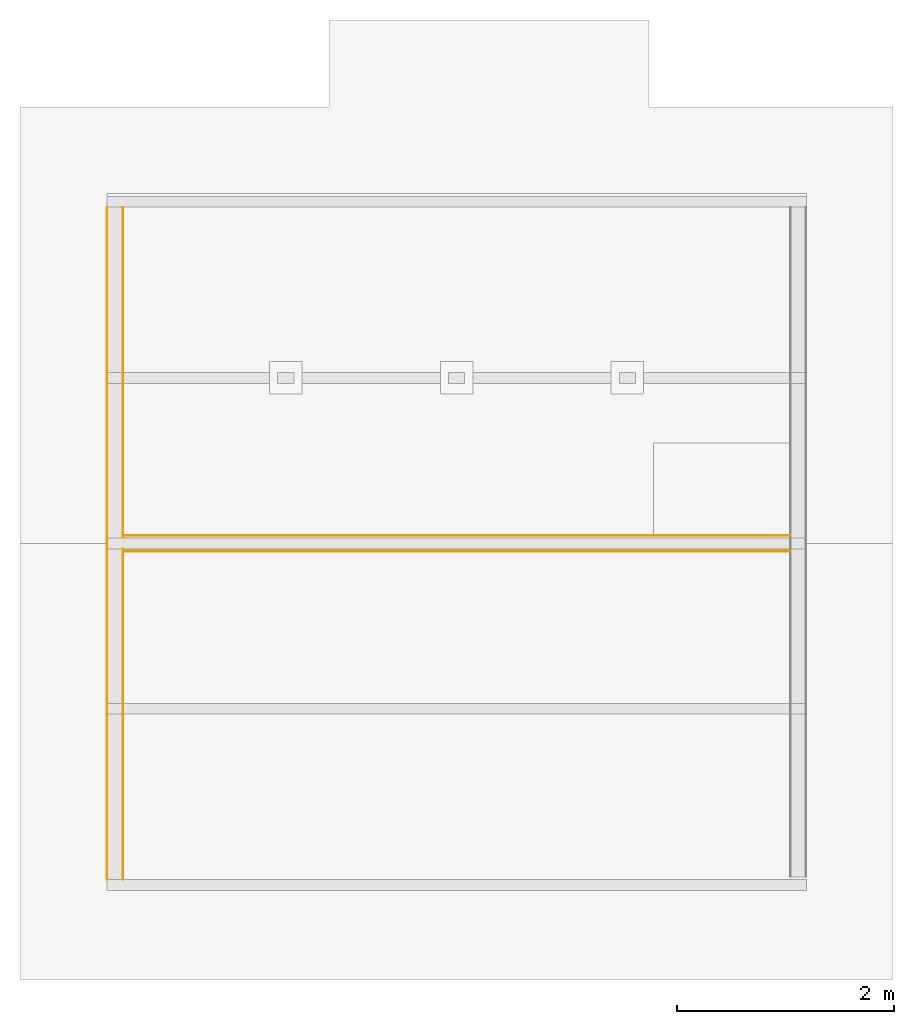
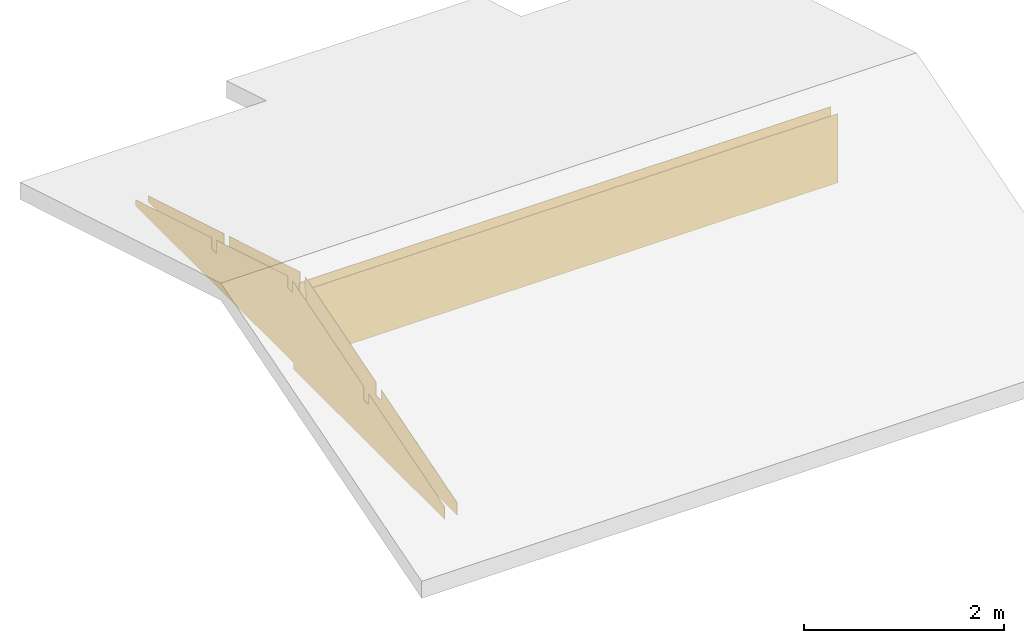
# One storey, part 3 of 4: 4 coverings, 2 elements without a shape of their own.
"""IFC2X3 building model written with IfcOpenShell, lengths in millimetres."""

from ifc_helpers import new_model, entity, si_unit, converted_unit, derived_unit, money_unit, direction, frame, origin_with_axes, place, context, subcontext, project, spatial, polyline, outline, extrude, boolean, faceted_brep, material, type_object, element, aggregate, save


model = new_model("IFC2X3")

# Units and contexts
model_context = context("Model", 3, precision=0.01, world=origin_with_axes(), true_north=direction((0.0, 1.0)))
body_context = subcontext(model_context, "Body", "Model", "MODEL_VIEW")
ifc_project = project(units=[si_unit("LENGTHUNIT", "METRE", prefix="MILLI"), si_unit("AREAUNIT", "SQUARE_METRE"), si_unit("VOLUMEUNIT", "CUBIC_METRE"), converted_unit("PLANEANGLEUNIT", "DEGREE", entity("IfcPlaneAngleMeasure", 0.0174532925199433), si_unit("PLANEANGLEUNIT", "RADIAN"), dimensions=[0, 0, 0, 0, 0, 0, 0]), money_unit("USD"), converted_unit("TIMEUNIT", "Year", entity("IfcTimeMeasure", 31557600.0), si_unit("TIMEUNIT", "SECOND"), dimensions=[0, 0, 1, 0, 0, 0, 0]), si_unit("MASSUNIT", "GRAM", prefix="KILO"), si_unit("THERMODYNAMICTEMPERATUREUNIT", "DEGREE_CELSIUS"), si_unit("LUMINOUSINTENSITYUNIT", "LUMEN"), si_unit("ENERGYUNIT", "JOULE", prefix="MEGA"), derived_unit("THERMALCONDUCTANCEUNIT", [(si_unit("POWERUNIT", "WATT"), 1), (si_unit("LENGTHUNIT", "METRE"), -1), (si_unit("THERMODYNAMICTEMPERATUREUNIT", "KELVIN"), -1)]), derived_unit("SPECIFICHEATCAPACITYUNIT", [(si_unit("ENERGYUNIT", "JOULE"), 1), (si_unit("MASSUNIT", "GRAM", prefix="KILO"), -1), (si_unit("THERMODYNAMICTEMPERATUREUNIT", "KELVIN"), -1)]), derived_unit("MASSDENSITYUNIT", [(si_unit("MASSUNIT", "GRAM", prefix="KILO"), 1), (si_unit("VOLUMEUNIT", "CUBIC_METRE"), -1)])], contexts=[model_context])

# Site, building, storey
site_placement = place(None, origin_with_axes())
site = spatial("IfcSite", under=ifc_project, at=site_placement, Name="Local", CompositionType="ELEMENT")
building_placement = place(site_placement, origin_with_axes())
building = spatial("IfcBuilding", under=site, at=building_placement, Name="Construção", CompositionType="ELEMENT")
storey_placement = place(building_placement, frame((0.0, 0.0, 2500.0), z_axis=(0.0, 0.0, 1.0), x_axis=(1.0, 0.0, 0.0)))
storey = spatial("IfcBuildingStorey", under=building, at=storey_placement, Name="Cobertura", CompositionType="ELEMENT", Elevation=2500.0)

# Wall, coverings
wall_type = type_object("IfcWallType", Name="Alvenaria 140, Rebocada 2 Faces 150", PredefinedType="NOTDEFINED")
wall_1_placement = place(storey_placement, frame((0.0, 6325.000000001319, 0.0), z_axis=(0.0, 0.0, 1.0), x_axis=(0.0, -1.0, 0.0)))
wall_1 = element("IfcWall", 1, at=wall_1_placement, inside=storey, type_object=wall_type, Name="Parede-09")
ifc_material = material(Name="Reboco DEF")
covering_1_placement = place(wall_1_placement, origin_with_axes())
covering_1 = element("IfcCovering", 2, at=covering_1_placement, material=ifc_material, Name="Reboco DEF", PredefinedType="CLADDING", context=body_context, shape_type="CSG", body=[
    boolean("DIFFERENCE", boolean("DIFFERENCE", boolean("DIFFERENCE", boolean("DIFFERENCE", boolean("DIFFERENCE", extrude(outline(polyline([(0.0, 0.0), (6200.000000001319, 0.0), (6200.000000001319, 5.000000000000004), (0.0, 5.000000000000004), (0.0, 0.0)])), origin_with_axes(), (0.0, 0.0, 1.0), 1176.306130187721), faceted_brep([(0.0, 0.0, 80.00000000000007), (0.0, 4.999999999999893, 80.00000000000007), (0.0, 5.000000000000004, 0.0), (0.0, 0.0, 0.0), (3175.000000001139, 0.0, 80.00000000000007), (3175.000000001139, 4.999999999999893, 80.00000000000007), (3175.000000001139, 4.999999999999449, 0.0), (3175.000000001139, 0.0, 0.0)], [[[0, 1, 2, 3]], [[1, 0, 4, 5]], [[5, 6, 2, 1]], [[6, 7, 3, 2]], [[4, 0, 3, 7]], [[7, 6, 5, 4]]])), faceted_brep([(1524.999999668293, 4.999999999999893, 480.4517407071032), (1524.999999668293, 4.999999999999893, 610.4517409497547), (0.0, 4.999999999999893, 152.9517410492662), (0.0, 5.000000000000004, 1176.306130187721), (6200.000000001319, 5.000000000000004, 1176.306130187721), (6200.000000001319, 4.999999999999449, 152.9517406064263), (4674.999999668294, 4.999999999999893, 610.4517407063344), (4674.999999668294, 4.999999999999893, 480.4517406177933), (4574.999999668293, 4.999999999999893, 480.4517406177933), (4574.999999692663, 4.999999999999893, 640.4517406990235), (3149.999999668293, 4.999999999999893, 1067.951740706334), (3149.999999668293, 4.999999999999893, 922.9517406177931), (3049.999999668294, 4.999999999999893, 922.9517406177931), (3049.999999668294, 4.999999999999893, 1067.951740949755), (1624.999999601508, 4.999999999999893, 640.451740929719), (1624.999999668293, 4.999999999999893, 480.4517407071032), (1524.999999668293, 0.0, 480.4517407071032), (1524.999999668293, 0.0, 610.4517409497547), (0.0, 0.0, 152.9517410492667), (0.0, 0.0, 1176.306130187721), (6200.000000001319, 0.0, 1176.306130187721), (6200.000000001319, 0.0, 152.9517406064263), (4674.999999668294, 0.0, 610.4517407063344), (4674.999999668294, 0.0, 480.4517406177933), (4574.999999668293, 0.0, 480.4517406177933), (4574.999999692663, 0.0, 640.4517406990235), (3149.999999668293, 0.0, 1067.951740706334), (3149.999999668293, 0.0, 922.9517406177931), (3049.999999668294, 0.0, 922.9517406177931), (3049.999999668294, 0.0, 1067.951740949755), (1624.999999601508, 0.0, 640.451740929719), (1624.999999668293, 0.0, 480.4517407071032)], [[[0, 1, 2, 3, 4, 5, 6, 7, 8, 9, 10, 11, 12, 13, 14, 15]], [[16, 17, 1, 0]], [[18, 2, 1, 17]], [[2, 18, 19, 3]], [[3, 19, 20, 4]], [[21, 5, 4, 20]], [[6, 5, 21, 22]], [[22, 23, 7, 6]], [[23, 24, 8, 7]], [[24, 25, 9, 8]], [[10, 9, 25, 26]], [[26, 27, 11, 10]], [[27, 28, 12, 11]], [[28, 29, 13, 12]], [[14, 13, 29, 30]], [[30, 31, 15, 14]], [[31, 16, 0, 15]], [[22, 21, 20, 19, 18, 17, 16, 31, 30, 29, 28, 27, 26, 25, 24, 23]]])), faceted_brep([(0.0, 4.999999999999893, 80.00000000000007), (0.0, 145.0, 80.00000000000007), (0.0, 145.0, 0.0), (0.0, 5.000000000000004, 0.0), (3175.000000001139, 4.999999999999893, 80.00000000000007), (3175.000000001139, 145.0, 80.00000000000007), (3175.000000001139, 144.9999999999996, 0.0), (3175.000000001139, 4.999999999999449, 0.0)], [[[0, 1, 2, 3]], [[1, 0, 4, 5]], [[5, 6, 2, 1]], [[6, 7, 3, 2]], [[4, 0, 3, 7]], [[7, 6, 5, 4]]])), faceted_brep([(1524.999999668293, 144.9999999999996, 480.4517407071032), (1524.999999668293, 144.9999999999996, 610.4517409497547), (0.0, 145.0, 152.9517410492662), (0.0, 145.0, 1176.306130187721), (6200.000000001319, 145.0, 1176.306130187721), (6200.000000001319, 144.9999999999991, 152.9517406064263), (4674.999999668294, 144.9999999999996, 610.4517407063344), (4674.999999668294, 144.9999999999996, 480.4517406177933), (4574.999999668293, 144.9999999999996, 480.4517406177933), (4574.999999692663, 144.9999999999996, 640.4517406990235), (3149.999999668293, 144.9999999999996, 1067.951740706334), (3149.999999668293, 144.9999999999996, 922.9517406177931), (3049.999999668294, 144.9999999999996, 922.9517406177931), (3049.999999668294, 144.9999999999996, 1067.951740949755), (1624.999999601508, 144.9999999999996, 640.451740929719), (1624.999999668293, 144.9999999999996, 480.4517407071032), (1524.999999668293, 4.999999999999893, 480.4517407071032), (1524.999999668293, 4.999999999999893, 610.4517409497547), (0.0, 4.999999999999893, 152.9517410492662), (0.0, 5.000000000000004, 1176.306130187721), (6200.000000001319, 5.000000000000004, 1176.306130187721), (6200.000000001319, 4.999999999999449, 152.9517406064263), (4674.999999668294, 4.999999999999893, 610.4517407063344), (4674.999999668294, 4.999999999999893, 480.4517406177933), (4574.999999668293, 4.999999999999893, 480.4517406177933), (4574.999999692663, 4.999999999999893, 640.4517406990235), (3149.999999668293, 4.999999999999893, 1067.951740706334), (3149.999999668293, 4.999999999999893, 922.9517406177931), (3049.999999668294, 4.999999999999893, 922.9517406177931), (3049.999999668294, 4.999999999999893, 1067.951740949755), (1624.999999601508, 4.999999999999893, 640.451740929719), (1624.999999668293, 4.999999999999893, 480.4517407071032)], [[[0, 1, 2, 3, 4, 5, 6, 7, 8, 9, 10, 11, 12, 13, 14, 15]], [[0, 16, 17, 1]], [[18, 2, 1, 17]], [[2, 18, 19, 3]], [[3, 19, 20, 4]], [[21, 5, 4, 20]], [[6, 5, 21, 22]], [[23, 7, 6, 22]], [[7, 23, 24, 8]], [[8, 24, 25, 9]], [[10, 9, 25, 26]], [[27, 11, 10, 26]], [[12, 11, 27, 28]], [[12, 28, 29, 13]], [[14, 13, 29, 30]], [[31, 15, 14, 30]], [[15, 31, 16, 0]], [[22, 21, 20, 19, 18, 17, 16, 31, 30, 29, 28, 27, 26, 25, 24, 23]]])), faceted_brep([(1524.999999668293, 149.9999999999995, 480.4517407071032), (1524.999999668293, 149.9999999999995, 610.4517409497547), (0.0, 149.9999999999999, 152.9517410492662), (0.0, 150.0, 1176.306130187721), (6200.000000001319, 150.0, 1176.306130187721), (6200.000000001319, 149.9999999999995, 152.9517406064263), (4674.999999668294, 149.9999999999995, 610.4517407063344), (4674.999999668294, 149.9999999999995, 480.4517406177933), (4574.999999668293, 149.9999999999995, 480.4517406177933), (4574.999999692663, 149.9999999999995, 640.4517406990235), (3149.999999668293, 149.9999999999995, 1067.951740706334), (3149.999999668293, 149.9999999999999, 922.9517406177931), (3170.000000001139, 149.9999999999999, 922.9517406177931), (3170.000000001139, 149.9999999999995, 80.00000000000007), (3175.000000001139, 149.9999999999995, 80.00000000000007), (3175.000000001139, 149.9999999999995, 0.0), (0.0, 150.0, 0.0), (0.0, 149.9999999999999, 80.00000000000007), (3030.000000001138, 150.0000000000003, 80.00000000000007), (3030.000000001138, 149.9999999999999, 922.9517406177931), (3049.999999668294, 149.9999999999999, 922.9517406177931), (3049.999999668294, 149.9999999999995, 1067.951740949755), (1624.999999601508, 149.9999999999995, 640.451740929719), (1624.999999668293, 149.9999999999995, 480.4517407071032), (1524.999999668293, 144.9999999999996, 480.4517407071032), (1524.999999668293, 144.9999999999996, 610.4517409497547), (0.0, 145.0, 152.9517410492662), (0.0, 145.0, 1176.306130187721), (6200.000000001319, 145.0, 1176.306130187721), (6200.000000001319, 144.9999999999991, 152.9517406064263), (4674.999999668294, 144.9999999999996, 610.4517407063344), (4674.999999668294, 144.9999999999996, 480.4517406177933), (4574.999999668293, 144.9999999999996, 480.4517406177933), (4574.999999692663, 144.9999999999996, 640.4517406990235), (3149.999999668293, 144.9999999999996, 1067.951740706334), (3149.999999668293, 144.9999999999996, 922.9517406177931), (3170.000000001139, 144.9999999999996, 922.9517406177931), (3170.000000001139, 145.0, 80.00000000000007), (3175.000000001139, 145.0, 80.00000000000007), (3175.000000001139, 144.9999999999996, 0.0), (0.0, 145.0, 0.0), (0.0, 145.0, 80.00000000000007), (3030.000000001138, 145.0, 80.00000000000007), (3030.000000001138, 144.9999999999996, 922.9517406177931), (3049.999999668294, 144.9999999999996, 922.9517406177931), (3049.999999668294, 144.9999999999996, 1067.951740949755), (1624.999999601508, 144.9999999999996, 640.451740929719), (1624.999999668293, 144.9999999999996, 480.4517407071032)], [[[0, 1, 2, 3, 4, 5, 6, 7, 8, 9, 10, 11, 12, 13, 14, 15, 16, 17, 18, 19, 20, 21, 22, 23]], [[1, 0, 24, 25]], [[26, 2, 1, 25]], [[2, 26, 27, 3]], [[3, 27, 28, 4]], [[29, 5, 4, 28]], [[6, 5, 29, 30]], [[7, 6, 30, 31]], [[8, 7, 31, 32]], [[9, 8, 32, 33]], [[10, 9, 33, 34]], [[11, 10, 34, 35]], [[12, 11, 35, 36]], [[13, 12, 36, 37]], [[14, 13, 37, 38]], [[15, 14, 38, 39]], [[15, 39, 40, 16]], [[41, 17, 16, 40]], [[18, 17, 41, 42]], [[19, 18, 42, 43]], [[20, 19, 43, 44]], [[21, 20, 44, 45]], [[22, 21, 45, 46]], [[23, 22, 46, 47]], [[0, 23, 47, 24]], [[42, 41, 40, 39, 38, 37, 36, 35, 34, 33, 32, 31, 30, 29, 28, 27, 26, 25, 24, 47, 46, 45, 44, 43]]])),
])
covering_2_placement = place(wall_1_placement, origin_with_axes())
covering_2 = element("IfcCovering", 3, at=covering_2_placement, material=ifc_material, Name="Reboco DEF", PredefinedType="CLADDING", context=body_context, shape_type="CSG", body=[
    boolean("DIFFERENCE", boolean("DIFFERENCE", boolean("DIFFERENCE", boolean("DIFFERENCE", boolean("DIFFERENCE", extrude(outline(polyline([(0.0, 145.0), (6200.000000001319, 145.0), (6200.000000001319, 150.0), (0.0, 150.0), (0.0, 145.0)])), origin_with_axes(), (0.0, 0.0, 1.0), 1176.306130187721), faceted_brep([(0.0, 0.0, 80.00000000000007), (0.0, 4.999999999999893, 80.00000000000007), (0.0, 5.000000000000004, 0.0), (0.0, 0.0, 0.0), (3175.000000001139, 0.0, 80.00000000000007), (3175.000000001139, 4.999999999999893, 80.00000000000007), (3175.000000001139, 4.999999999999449, 0.0), (3175.000000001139, 0.0, 0.0)], [[[0, 1, 2, 3]], [[1, 0, 4, 5]], [[5, 6, 2, 1]], [[6, 7, 3, 2]], [[4, 0, 3, 7]], [[7, 6, 5, 4]]])), faceted_brep([(1524.999999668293, 4.999999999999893, 480.4517407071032), (1524.999999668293, 4.999999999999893, 610.4517409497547), (0.0, 4.999999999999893, 152.9517410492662), (0.0, 5.000000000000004, 1176.306130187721), (6200.000000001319, 5.000000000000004, 1176.306130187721), (6200.000000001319, 4.999999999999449, 152.9517406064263), (4674.999999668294, 4.999999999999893, 610.4517407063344), (4674.999999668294, 4.999999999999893, 480.4517406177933), (4574.999999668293, 4.999999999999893, 480.4517406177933), (4574.999999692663, 4.999999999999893, 640.4517406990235), (3149.999999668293, 4.999999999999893, 1067.951740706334), (3149.999999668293, 4.999999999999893, 922.9517406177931), (3049.999999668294, 4.999999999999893, 922.9517406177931), (3049.999999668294, 4.999999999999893, 1067.951740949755), (1624.999999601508, 4.999999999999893, 640.451740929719), (1624.999999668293, 4.999999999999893, 480.4517407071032), (1524.999999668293, 0.0, 480.4517407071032), (1524.999999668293, 0.0, 610.4517409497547), (0.0, 0.0, 152.9517410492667), (0.0, 0.0, 1176.306130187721), (6200.000000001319, 0.0, 1176.306130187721), (6200.000000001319, 0.0, 152.9517406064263), (4674.999999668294, 0.0, 610.4517407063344), (4674.999999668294, 0.0, 480.4517406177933), (4574.999999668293, 0.0, 480.4517406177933), (4574.999999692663, 0.0, 640.4517406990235), (3149.999999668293, 0.0, 1067.951740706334), (3149.999999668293, 0.0, 922.9517406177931), (3049.999999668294, 0.0, 922.9517406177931), (3049.999999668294, 0.0, 1067.951740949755), (1624.999999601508, 0.0, 640.451740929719), (1624.999999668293, 0.0, 480.4517407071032)], [[[0, 1, 2, 3, 4, 5, 6, 7, 8, 9, 10, 11, 12, 13, 14, 15]], [[16, 17, 1, 0]], [[18, 2, 1, 17]], [[2, 18, 19, 3]], [[3, 19, 20, 4]], [[21, 5, 4, 20]], [[6, 5, 21, 22]], [[22, 23, 7, 6]], [[23, 24, 8, 7]], [[24, 25, 9, 8]], [[10, 9, 25, 26]], [[26, 27, 11, 10]], [[27, 28, 12, 11]], [[28, 29, 13, 12]], [[14, 13, 29, 30]], [[30, 31, 15, 14]], [[31, 16, 0, 15]], [[22, 21, 20, 19, 18, 17, 16, 31, 30, 29, 28, 27, 26, 25, 24, 23]]])), faceted_brep([(0.0, 4.999999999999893, 80.00000000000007), (0.0, 145.0, 80.00000000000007), (0.0, 145.0, 0.0), (0.0, 5.000000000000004, 0.0), (3175.000000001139, 4.999999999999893, 80.00000000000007), (3175.000000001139, 145.0, 80.00000000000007), (3175.000000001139, 144.9999999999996, 0.0), (3175.000000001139, 4.999999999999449, 0.0)], [[[0, 1, 2, 3]], [[1, 0, 4, 5]], [[5, 6, 2, 1]], [[6, 7, 3, 2]], [[4, 0, 3, 7]], [[7, 6, 5, 4]]])), faceted_brep([(1524.999999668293, 144.9999999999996, 480.4517407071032), (1524.999999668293, 144.9999999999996, 610.4517409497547), (0.0, 145.0, 152.9517410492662), (0.0, 145.0, 1176.306130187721), (6200.000000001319, 145.0, 1176.306130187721), (6200.000000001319, 144.9999999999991, 152.9517406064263), (4674.999999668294, 144.9999999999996, 610.4517407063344), (4674.999999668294, 144.9999999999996, 480.4517406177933), (4574.999999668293, 144.9999999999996, 480.4517406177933), (4574.999999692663, 144.9999999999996, 640.4517406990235), (3149.999999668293, 144.9999999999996, 1067.951740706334), (3149.999999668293, 144.9999999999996, 922.9517406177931), (3049.999999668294, 144.9999999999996, 922.9517406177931), (3049.999999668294, 144.9999999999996, 1067.951740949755), (1624.999999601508, 144.9999999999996, 640.451740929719), (1624.999999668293, 144.9999999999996, 480.4517407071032), (1524.999999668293, 4.999999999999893, 480.4517407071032), (1524.999999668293, 4.999999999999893, 610.4517409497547), (0.0, 4.999999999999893, 152.9517410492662), (0.0, 5.000000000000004, 1176.306130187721), (6200.000000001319, 5.000000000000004, 1176.306130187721), (6200.000000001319, 4.999999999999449, 152.9517406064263), (4674.999999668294, 4.999999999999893, 610.4517407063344), (4674.999999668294, 4.999999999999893, 480.4517406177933), (4574.999999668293, 4.999999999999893, 480.4517406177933), (4574.999999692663, 4.999999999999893, 640.4517406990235), (3149.999999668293, 4.999999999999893, 1067.951740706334), (3149.999999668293, 4.999999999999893, 922.9517406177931), (3049.999999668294, 4.999999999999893, 922.9517406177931), (3049.999999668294, 4.999999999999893, 1067.951740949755), (1624.999999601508, 4.999999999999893, 640.451740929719), (1624.999999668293, 4.999999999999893, 480.4517407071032)], [[[0, 1, 2, 3, 4, 5, 6, 7, 8, 9, 10, 11, 12, 13, 14, 15]], [[0, 16, 17, 1]], [[18, 2, 1, 17]], [[2, 18, 19, 3]], [[3, 19, 20, 4]], [[21, 5, 4, 20]], [[6, 5, 21, 22]], [[23, 7, 6, 22]], [[7, 23, 24, 8]], [[8, 24, 25, 9]], [[10, 9, 25, 26]], [[27, 11, 10, 26]], [[12, 11, 27, 28]], [[12, 28, 29, 13]], [[14, 13, 29, 30]], [[31, 15, 14, 30]], [[15, 31, 16, 0]], [[22, 21, 20, 19, 18, 17, 16, 31, 30, 29, 28, 27, 26, 25, 24, 23]]])), faceted_brep([(1524.999999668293, 149.9999999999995, 480.4517407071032), (1524.999999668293, 149.9999999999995, 610.4517409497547), (0.0, 149.9999999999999, 152.9517410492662), (0.0, 150.0, 1176.306130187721), (6200.000000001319, 150.0, 1176.306130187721), (6200.000000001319, 149.9999999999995, 152.9517406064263), (4674.999999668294, 149.9999999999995, 610.4517407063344), (4674.999999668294, 149.9999999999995, 480.4517406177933), (4574.999999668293, 149.9999999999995, 480.4517406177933), (4574.999999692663, 149.9999999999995, 640.4517406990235), (3149.999999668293, 149.9999999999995, 1067.951740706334), (3149.999999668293, 149.9999999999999, 922.9517406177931), (3170.000000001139, 149.9999999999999, 922.9517406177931), (3170.000000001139, 149.9999999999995, 80.00000000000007), (3175.000000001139, 149.9999999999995, 80.00000000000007), (3175.000000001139, 149.9999999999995, 0.0), (0.0, 150.0, 0.0), (0.0, 149.9999999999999, 80.00000000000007), (3030.000000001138, 150.0000000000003, 80.00000000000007), (3030.000000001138, 149.9999999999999, 922.9517406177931), (3049.999999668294, 149.9999999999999, 922.9517406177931), (3049.999999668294, 149.9999999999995, 1067.951740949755), (1624.999999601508, 149.9999999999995, 640.451740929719), (1624.999999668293, 149.9999999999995, 480.4517407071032), (1524.999999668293, 144.9999999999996, 480.4517407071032), (1524.999999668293, 144.9999999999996, 610.4517409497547), (0.0, 145.0, 152.9517410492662), (0.0, 145.0, 1176.306130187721), (6200.000000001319, 145.0, 1176.306130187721), (6200.000000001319, 144.9999999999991, 152.9517406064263), (4674.999999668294, 144.9999999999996, 610.4517407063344), (4674.999999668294, 144.9999999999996, 480.4517406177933), (4574.999999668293, 144.9999999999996, 480.4517406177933), (4574.999999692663, 144.9999999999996, 640.4517406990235), (3149.999999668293, 144.9999999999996, 1067.951740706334), (3149.999999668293, 144.9999999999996, 922.9517406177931), (3170.000000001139, 144.9999999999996, 922.9517406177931), (3170.000000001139, 145.0, 80.00000000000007), (3175.000000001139, 145.0, 80.00000000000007), (3175.000000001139, 144.9999999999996, 0.0), (0.0, 145.0, 0.0), (0.0, 145.0, 80.00000000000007), (3030.000000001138, 145.0, 80.00000000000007), (3030.000000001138, 144.9999999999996, 922.9517406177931), (3049.999999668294, 144.9999999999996, 922.9517406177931), (3049.999999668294, 144.9999999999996, 1067.951740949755), (1624.999999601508, 144.9999999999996, 640.451740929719), (1624.999999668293, 144.9999999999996, 480.4517407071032)], [[[0, 1, 2, 3, 4, 5, 6, 7, 8, 9, 10, 11, 12, 13, 14, 15, 16, 17, 18, 19, 20, 21, 22, 23]], [[1, 0, 24, 25]], [[26, 2, 1, 25]], [[2, 26, 27, 3]], [[3, 27, 28, 4]], [[29, 5, 4, 28]], [[6, 5, 29, 30]], [[7, 6, 30, 31]], [[8, 7, 31, 32]], [[9, 8, 32, 33]], [[10, 9, 33, 34]], [[11, 10, 34, 35]], [[12, 11, 35, 36]], [[13, 12, 36, 37]], [[14, 13, 37, 38]], [[15, 14, 38, 39]], [[15, 39, 40, 16]], [[41, 17, 16, 40]], [[18, 17, 41, 42]], [[19, 18, 42, 43]], [[20, 19, 43, 44]], [[21, 20, 44, 45]], [[22, 21, 45, 46]], [[23, 22, 46, 47]], [[0, 23, 47, 24]], [[42, 41, 40, 39, 38, 37, 36, 35, 34, 33, 32, 31, 30, 29, 28, 27, 26, 25, 24, 47, 46, 45, 44, 43]]])),
])
aggregate(wall_1, [covering_1, covering_2])

wall_2_placement = place(storey_placement, frame((6299.999999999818, 3300.00000000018, 0.0), z_axis=(0.0, 0.0, 1.0), x_axis=(-1.0, 0.0, 0.0)))
wall_2 = element("IfcWall", 4, at=wall_2_placement, inside=storey, type_object=wall_type, Name="Parede-11")
covering_3_placement = place(wall_2_placement, origin_with_axes())
covering_3 = element("IfcCovering", 5, at=covering_3_placement, material=ifc_material, Name="Reboco DEF", PredefinedType="CLADDING", context=body_context, shape_type="CSG", body=[
    boolean("DIFFERENCE", boolean("DIFFERENCE", boolean("DIFFERENCE", extrude(outline(polyline([(0.0, 0.0), (6299.999999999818, 0.0), (6299.999999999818, 4.999999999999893), (0.0, 4.999999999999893), (0.0, 0.0)])), origin_with_axes(), (0.0, 0.0, 1.0), 922.9517406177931), faceted_brep([(6149.999999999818, 0.0, 922.9517406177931), (6149.999999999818, 0.0, 80.00000000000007), (0.0, 0.0, 80.00000000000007), (0.0, 0.0, 0.0), (6299.999999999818, 0.0, 0.0), (6299.999999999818, 0.0, 922.9517406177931), (6149.999999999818, 4.999999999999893, 922.9517406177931), (6149.999999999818, 4.999999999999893, 80.00000000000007), (0.0, 4.999999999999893, 80.00000000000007), (0.0, 4.999999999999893, 0.0), (6299.999999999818, 4.999999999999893, 0.0), (6299.999999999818, 4.999999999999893, 922.9517406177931)], [[[0, 1, 2, 3, 4, 5]], [[1, 0, 6, 7]], [[8, 2, 1, 7]], [[2, 8, 9, 3]], [[4, 3, 9, 10]], [[5, 4, 10, 11]], [[6, 0, 5, 11]], [[7, 6, 11, 10, 9, 8]]])), faceted_brep([(6154.999999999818, 4.999999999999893, 80.00000000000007), (0.0, 4.999999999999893, 80.00000000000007), (0.0, 4.999999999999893, 0.0), (6299.999999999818, 4.999999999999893, 0.0), (6299.999999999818, 4.999999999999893, 922.9517406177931), (6154.999999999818, 4.999999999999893, 922.9517406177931), (0.0, 145.0, 80.00000000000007), (6154.999999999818, 145.0, 80.00000000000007), (0.0, 145.0, 0.0), (6299.999999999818, 145.0, 0.0), (6299.999999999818, 145.0, 922.9517406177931), (6154.999999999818, 145.0, 922.9517406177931)], [[[0, 1, 2, 3, 4, 5]], [[6, 1, 0, 7]], [[1, 6, 8, 2]], [[3, 2, 8, 9]], [[4, 3, 9, 10]], [[11, 5, 4, 10]], [[0, 5, 11, 7]], [[7, 11, 10, 9, 8, 6]]])), faceted_brep([(6149.999999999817, 145.0, 922.9517406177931), (6149.999999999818, 145.0, 80.00000000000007), (0.0, 145.0, 80.00000000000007), (0.0, 145.0, 0.0), (6299.999999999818, 145.0, 0.0), (6299.999999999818, 145.0, 922.9517406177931), (6149.999999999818, 149.9999999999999, 922.9517406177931), (6149.999999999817, 150.0000000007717, 80.00000000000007), (0.0, 150.0000000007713, 80.00000000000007), (0.0, 149.9999999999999, 0.0), (6299.999999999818, 149.9999999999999, 0.0), (6299.999999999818, 149.9999999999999, 922.9517406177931)], [[[0, 1, 2, 3, 4, 5]], [[1, 0, 6, 7]], [[8, 2, 1, 7]], [[2, 8, 9, 3]], [[4, 3, 9, 10]], [[5, 4, 10, 11]], [[6, 0, 5, 11]], [[7, 6, 11, 10, 9, 8]]])),
])
covering_4_placement = place(wall_2_placement, origin_with_axes())
covering_4 = element("IfcCovering", 6, at=covering_4_placement, material=ifc_material, Name="Reboco DEF", PredefinedType="CLADDING", context=body_context, shape_type="CSG", body=[
    boolean("DIFFERENCE", boolean("DIFFERENCE", boolean("DIFFERENCE", extrude(outline(polyline([(0.0, 145.0), (6299.999999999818, 145.0), (6299.999999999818, 149.9999999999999), (0.0, 149.9999999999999), (0.0, 145.0)])), origin_with_axes(), (0.0, 0.0, 1.0), 922.9517406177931), faceted_brep([(6149.999999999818, 0.0, 922.9517406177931), (6149.999999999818, 0.0, 80.00000000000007), (0.0, 0.0, 80.00000000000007), (0.0, 0.0, 0.0), (6299.999999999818, 0.0, 0.0), (6299.999999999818, 0.0, 922.9517406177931), (6149.999999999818, 4.999999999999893, 922.9517406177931), (6149.999999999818, 4.999999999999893, 80.00000000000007), (0.0, 4.999999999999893, 80.00000000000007), (0.0, 4.999999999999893, 0.0), (6299.999999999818, 4.999999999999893, 0.0), (6299.999999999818, 4.999999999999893, 922.9517406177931)], [[[0, 1, 2, 3, 4, 5]], [[1, 0, 6, 7]], [[8, 2, 1, 7]], [[2, 8, 9, 3]], [[4, 3, 9, 10]], [[5, 4, 10, 11]], [[6, 0, 5, 11]], [[7, 6, 11, 10, 9, 8]]])), faceted_brep([(6154.999999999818, 4.999999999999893, 80.00000000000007), (0.0, 4.999999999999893, 80.00000000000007), (0.0, 4.999999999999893, 0.0), (6299.999999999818, 4.999999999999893, 0.0), (6299.999999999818, 4.999999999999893, 922.9517406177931), (6154.999999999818, 4.999999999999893, 922.9517406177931), (0.0, 145.0, 80.00000000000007), (6154.999999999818, 145.0, 80.00000000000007), (0.0, 145.0, 0.0), (6299.999999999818, 145.0, 0.0), (6299.999999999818, 145.0, 922.9517406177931), (6154.999999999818, 145.0, 922.9517406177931)], [[[0, 1, 2, 3, 4, 5]], [[6, 1, 0, 7]], [[1, 6, 8, 2]], [[3, 2, 8, 9]], [[4, 3, 9, 10]], [[11, 5, 4, 10]], [[0, 5, 11, 7]], [[7, 11, 10, 9, 8, 6]]])), faceted_brep([(6149.999999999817, 145.0, 922.9517406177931), (6149.999999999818, 145.0, 80.00000000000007), (0.0, 145.0, 80.00000000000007), (0.0, 145.0, 0.0), (6299.999999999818, 145.0, 0.0), (6299.999999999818, 145.0, 922.9517406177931), (6149.999999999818, 149.9999999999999, 922.9517406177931), (6149.999999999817, 150.0000000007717, 80.00000000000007), (0.0, 150.0000000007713, 80.00000000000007), (0.0, 149.9999999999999, 0.0), (6299.999999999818, 149.9999999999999, 0.0), (6299.999999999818, 149.9999999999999, 922.9517406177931)], [[[0, 1, 2, 3, 4, 5]], [[1, 0, 6, 7]], [[8, 2, 1, 7]], [[2, 8, 9, 3]], [[4, 3, 9, 10]], [[5, 4, 10, 11]], [[6, 0, 5, 11]], [[7, 6, 11, 10, 9, 8]]])),
])
aggregate(wall_2, [covering_3, covering_4])

save(model, "model.ifc")
